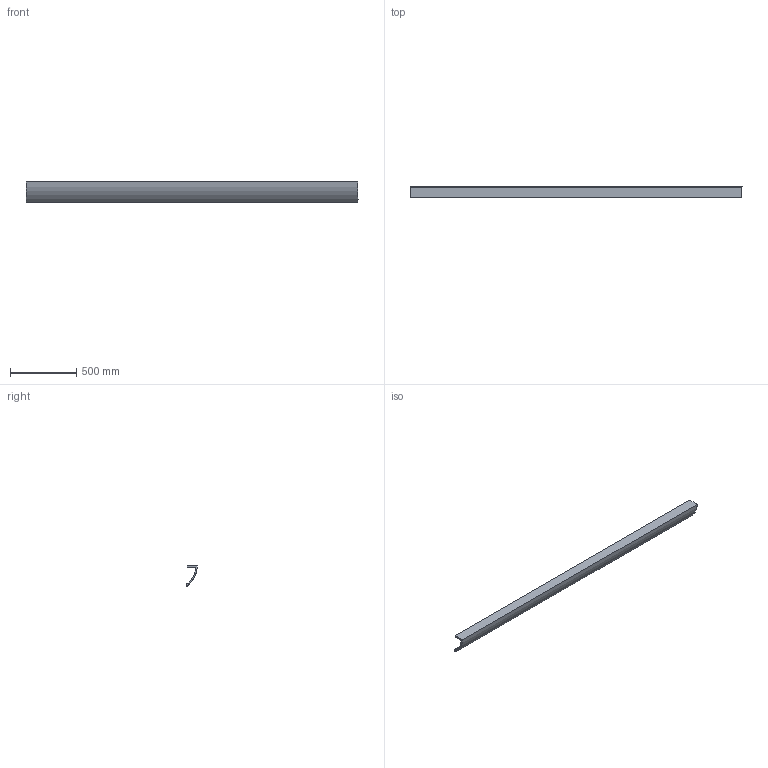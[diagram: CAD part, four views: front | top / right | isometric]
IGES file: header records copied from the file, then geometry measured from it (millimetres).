
Start section: SolidWorks IGES file using analytic representation for surfaces
Global section: file name: C:\Users\Stagiaire\Desktop\Rendu 3D\CORNICHE\198 CORNICHE\198_CORNICHE.IGS; native system: SolidWorks 2014; preprocessor: SolidWorks 2014; author: Stagiaire; date: 140915.094808; units: millimetre
Bounding box: 2500 x 82.48 x 151 mm (x, y, z)
Surface area: 1253646.5 mm2 (no closed solid volume)
Topology: 0 solids, 0 shells, 13 faces, 134 edges, 134 vertices
Faces by surface type: revolution 8, bspline 5
